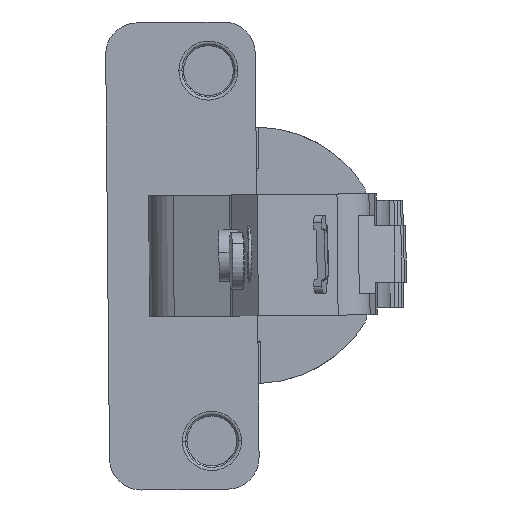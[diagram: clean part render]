
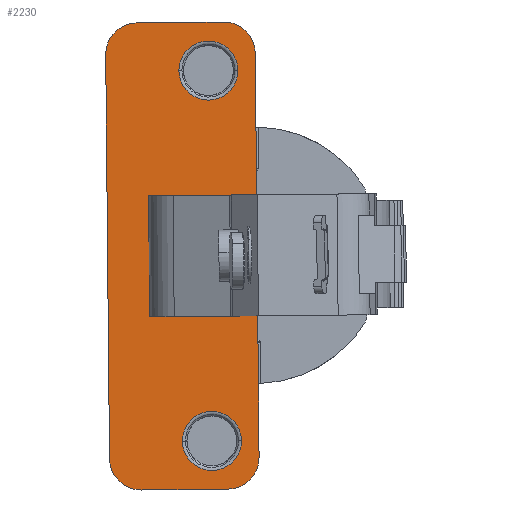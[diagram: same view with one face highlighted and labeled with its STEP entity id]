
A CAD part, left-side view. The second image highlights one B-rep face of the part: STEP entity #2230.
In plain terms, the highlighted planar face has unit normal (-1, 0, 0).
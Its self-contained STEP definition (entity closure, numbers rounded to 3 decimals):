
#76 = VERTEX_POINT ( 'NONE', #7953 ) ;
#136 = CARTESIAN_POINT ( 'NONE',  ( -3., 40.975, -9.781 ) ) ;
#166 = VERTEX_POINT ( 'NONE', #4179 ) ;
#216 = DIRECTION ( 'NONE',  ( 0., -1., 0.009 ) ) ;
#254 = ORIENTED_EDGE ( 'NONE', *, *, #7974, .T. ) ;
#343 = EDGE_CURVE ( 'NONE', #4344, #3822, #7527, .T. ) ;
#393 = AXIS2_PLACEMENT_3D ( 'NONE', #5377, #6054, #3432 ) ;
#440 = CARTESIAN_POINT ( 'NONE',  ( -3., 25.818, -9.639 ) ) ;
#517 = VERTEX_POINT ( 'NONE', #136 ) ;
#518 = CARTESIAN_POINT ( 'NONE',  ( -3., 32.095, -44.199 ) ) ;
#556 = VECTOR ( 'NONE', #6443, 1000. ) ;
#587 = ORIENTED_EDGE ( 'NONE', *, *, #4378, .F. ) ;
#614 = DIRECTION ( 'NONE',  ( -1., 0., 0. ) ) ;
#635 = EDGE_CURVE ( 'NONE', #2062, #5420, #2954, .T. ) ;
#787 = VERTEX_POINT ( 'NONE', #7064 ) ;
#866 = LINE ( 'NONE', #3310, #5435 ) ;
#879 = CARTESIAN_POINT ( 'NONE',  ( -3., 42.009, -46.628 ) ) ;
#886 = EDGE_CURVE ( 'NONE', #166, #5793, #5086, .T. ) ;
#904 = EDGE_CURVE ( 'NONE', #5199, #969, #2133, .T. ) ;
#969 = VERTEX_POINT ( 'NONE', #1000 ) ;
#990 = ORIENTED_EDGE ( 'NONE', *, *, #3110, .T. ) ;
#993 = ORIENTED_EDGE ( 'NONE', *, *, #3153, .T. ) ;
#1000 = CARTESIAN_POINT ( 'NONE',  ( -3., 42.582, 14.505 ) ) ;
#1036 = CARTESIAN_POINT ( 'NONE',  ( -3., 46.472, -46.67 ) ) ;
#1132 = DIRECTION ( 'NONE',  ( 0., -1., 0.009 ) ) ;
#1221 = LINE ( 'NONE', #4443, #556 ) ;
#1252 = VERTEX_POINT ( 'NONE', #1992 ) ;
#1270 = EDGE_CURVE ( 'NONE', #1252, #5199, #1480, .T. ) ;
#1336 = ORIENTED_EDGE ( 'NONE', *, *, #635, .T. ) ;
#1448 = DIRECTION ( 'NONE',  ( -1., 0., 0. ) ) ;
#1480 = CIRCLE ( 'NONE', #3628, 4.464 ) ;
#1672 = CARTESIAN_POINT ( 'NONE',  ( -3., 25.473, -46.515 ) ) ;
#1719 = CARTESIAN_POINT ( 'NONE',  ( -3., 29.937, -46.515 ) ) ;
#1768 = CARTESIAN_POINT ( 'NONE',  ( -3., 32.582, 7.799 ) ) ;
#1840 = VERTEX_POINT ( 'NONE', #5598 ) ;
#1873 = ORIENTED_EDGE ( 'NONE', *, *, #6617, .F. ) ;
#1924 = AXIS2_PLACEMENT_3D ( 'NONE', #518, #3223, #6428 ) ;
#1940 = VERTEX_POINT ( 'NONE', #440 ) ;
#1972 = AXIS2_PLACEMENT_3D ( 'NONE', #3446, #2812, #7976 ) ;
#1992 = CARTESIAN_POINT ( 'NONE',  ( -3., 26.004, 10.197 ) ) ;
#2062 = VERTEX_POINT ( 'NONE', #5458 ) ;
#2133 = LINE ( 'NONE', #6517, #2542 ) ;
#2230 = ADVANCED_FACE ( 'NONE', ( #3548, #7485, #6883 ), #2325, .T. ) ;
#2243 = CIRCLE ( 'NONE', #1972, 4.464 ) ;
#2256 = VERTEX_POINT ( 'NONE', #7358 ) ;
#2293 = DIRECTION ( 'NONE',  ( -1., 0., 0. ) ) ;
#2325 = PLANE ( 'NONE',  #7099 ) ;
#2350 = DIRECTION ( 'NONE',  ( 0., -1., 0.009 ) ) ;
#2437 = EDGE_CURVE ( 'NONE', #3822, #4344, #6264, .T. ) ;
#2542 = VECTOR ( 'NONE', #5882, 1000. ) ;
#2642 = VECTOR ( 'NONE', #2350, 1000. ) ;
#2812 = DIRECTION ( 'NONE',  ( -1., 0., 0. ) ) ;
#2867 = CIRCLE ( 'NONE', #1924, 4.149 ) ;
#2921 = DIRECTION ( 'NONE',  ( 0., -1., 0.009 ) ) ;
#2954 = LINE ( 'NONE', #7309, #4409 ) ;
#3052 = EDGE_CURVE ( 'NONE', #969, #76, #2243, .T. ) ;
#3053 = ORIENTED_EDGE ( 'NONE', *, *, #3101, .F. ) ;
#3098 = DIRECTION ( 'NONE',  ( 0., 0.009, 1. ) ) ;
#3101 = EDGE_CURVE ( 'NONE', #3135, #5420, #6263, .T. ) ;
#3110 = EDGE_CURVE ( 'NONE', #5793, #2062, #5195, .T. ) ;
#3135 = VERTEX_POINT ( 'NONE', #5023 ) ;
#3153 = EDGE_CURVE ( 'NONE', #3135, #517, #3650, .T. ) ;
#3223 = DIRECTION ( 'NONE',  ( -1., 0., 0. ) ) ;
#3310 = CARTESIAN_POINT ( 'NONE',  ( -3., 29.895, -50.979 ) ) ;
#3324 = ORIENTED_EDGE ( 'NONE', *, *, #2437, .T. ) ;
#3386 = DIRECTION ( 'NONE',  ( 0., -1., 0.009 ) ) ;
#3432 = DIRECTION ( 'NONE',  ( 0., -1., 0. ) ) ;
#3446 = CARTESIAN_POINT ( 'NONE',  ( -3., 42.54, 10.042 ) ) ;
#3507 = CARTESIAN_POINT ( 'NONE',  ( -3., 42.009, -46.628 ) ) ;
#3548 = FACE_BOUND ( 'NONE', #5753, .T. ) ;
#3628 = AXIS2_PLACEMENT_3D ( 'NONE', #4597, #1448, #7187 ) ;
#3637 = ORIENTED_EDGE ( 'NONE', *, *, #3052, .T. ) ;
#3650 = LINE ( 'NONE', #3770, #7780 ) ;
#3770 = CARTESIAN_POINT ( 'NONE',  ( -3., 40.082, -104.989 ) ) ;
#3822 = VERTEX_POINT ( 'NONE', #7353 ) ;
#3880 = AXIS2_PLACEMENT_3D ( 'NONE', #1768, #7688, #6410 ) ;
#4087 = DIRECTION ( 'NONE',  ( 0., 0.009, 1. ) ) ;
#4145 = CIRCLE ( 'NONE', #5357, 4.149 ) ;
#4179 = CARTESIAN_POINT ( 'NONE',  ( -3., 29.895, -50.979 ) ) ;
#4312 = ORIENTED_EDGE ( 'NONE', *, *, #1270, .T. ) ;
#4331 = EDGE_CURVE ( 'NONE', #1840, #8213, #4543, .T. ) ;
#4344 = VERTEX_POINT ( 'NONE', #7385 ) ;
#4350 = ORIENTED_EDGE ( 'NONE', *, *, #7439, .F. ) ;
#4352 = DIRECTION ( 'NONE',  ( 0., 0.009, 1. ) ) ;
#4378 = EDGE_CURVE ( 'NONE', #787, #2256, #4145, .T. ) ;
#4397 = CARTESIAN_POINT ( 'NONE',  ( -3., 25.659, -26.638 ) ) ;
#4398 = CARTESIAN_POINT ( 'NONE',  ( -3., 26.004, 10.197 ) ) ;
#4409 = VECTOR ( 'NONE', #4087, 1000. ) ;
#4443 = CARTESIAN_POINT ( 'NONE',  ( -3., 25.818, -9.639 ) ) ;
#4448 = DIRECTION ( 'NONE',  ( 0., -0.009, -1. ) ) ;
#4469 = EDGE_CURVE ( 'NONE', #1940, #1252, #7627, .T. ) ;
#4543 = CIRCLE ( 'NONE', #6968, 4.464 ) ;
#4545 = LINE ( 'NONE', #1036, #4917 ) ;
#4597 = CARTESIAN_POINT ( 'NONE',  ( -3., 30.468, 10.155 ) ) ;
#4917 = VECTOR ( 'NONE', #4448, 1000. ) ;
#4949 = DIRECTION ( 'NONE',  ( 0., -1., 0. ) ) ;
#5023 = CARTESIAN_POINT ( 'NONE',  ( -3., 40.815, -26.78 ) ) ;
#5086 = CIRCLE ( 'NONE', #393, 4.464 ) ;
#5129 = CARTESIAN_POINT ( 'NONE',  ( -3., 30.51, 14.618 ) ) ;
#5195 = CIRCLE ( 'NONE', #7505, 4.464 ) ;
#5199 = VERTEX_POINT ( 'NONE', #5129 ) ;
#5225 = EDGE_CURVE ( 'NONE', #76, #1840, #4545, .T. ) ;
#5311 = CARTESIAN_POINT ( 'NONE',  ( -3., 32.582, 7.799 ) ) ;
#5357 = AXIS2_PLACEMENT_3D ( 'NONE', #8299, #614, #1132 ) ;
#5375 = ORIENTED_EDGE ( 'NONE', *, *, #5225, .T. ) ;
#5377 = CARTESIAN_POINT ( 'NONE',  ( -3., 29.937, -46.515 ) ) ;
#5420 = VERTEX_POINT ( 'NONE', #7474 ) ;
#5429 = DIRECTION ( 'NONE',  ( -1., 0., 0. ) ) ;
#5435 = VECTOR ( 'NONE', #3386, 1000. ) ;
#5458 = CARTESIAN_POINT ( 'NONE',  ( -3., 25.473, -46.473 ) ) ;
#5546 = DIRECTION ( 'NONE',  ( -1., 0., 0. ) ) ;
#5598 = CARTESIAN_POINT ( 'NONE',  ( -3., 46.472, -46.67 ) ) ;
#5608 = AXIS2_PLACEMENT_3D ( 'NONE', #5311, #7905, #216 ) ;
#5753 = EDGE_LOOP ( 'NONE', ( #3324, #6971 ) ) ;
#5793 = VERTEX_POINT ( 'NONE', #1672 ) ;
#5882 = DIRECTION ( 'NONE',  ( 0., 1., -0.009 ) ) ;
#6054 = DIRECTION ( 'NONE',  ( -1., 0., 0. ) ) ;
#6255 = ORIENTED_EDGE ( 'NONE', *, *, #4331, .T. ) ;
#6263 = LINE ( 'NONE', #4397, #2642 ) ;
#6264 = CIRCLE ( 'NONE', #5608, 4.149 ) ;
#6410 = DIRECTION ( 'NONE',  ( 0., -1., 0.009 ) ) ;
#6428 = DIRECTION ( 'NONE',  ( 0., -1., 0.009 ) ) ;
#6443 = DIRECTION ( 'NONE',  ( 0., 1., -0.009 ) ) ;
#6517 = CARTESIAN_POINT ( 'NONE',  ( -3., 42.582, 14.505 ) ) ;
#6617 = EDGE_CURVE ( 'NONE', #2256, #787, #2867, .T. ) ;
#6770 = CARTESIAN_POINT ( 'NONE',  ( -3., 41.967, -51.092 ) ) ;
#6883 = FACE_OUTER_BOUND ( 'NONE', #8327, .T. ) ;
#6968 = AXIS2_PLACEMENT_3D ( 'NONE', #879, #5429, #8018 ) ;
#6971 = ORIENTED_EDGE ( 'NONE', *, *, #343, .T. ) ;
#7064 = CARTESIAN_POINT ( 'NONE',  ( -3., 36.243, -44.238 ) ) ;
#7099 = AXIS2_PLACEMENT_3D ( 'NONE', #3507, #2293, #2921 ) ;
#7187 = DIRECTION ( 'NONE',  ( 0., -1., 0. ) ) ;
#7309 = CARTESIAN_POINT ( 'NONE',  ( -3., 26.004, 10.197 ) ) ;
#7353 = CARTESIAN_POINT ( 'NONE',  ( -3., 28.434, 7.838 ) ) ;
#7358 = CARTESIAN_POINT ( 'NONE',  ( -3., 27.946, -44.16 ) ) ;
#7385 = CARTESIAN_POINT ( 'NONE',  ( -3., 36.731, 7.76 ) ) ;
#7439 = EDGE_CURVE ( 'NONE', #1940, #517, #1221, .T. ) ;
#7474 = CARTESIAN_POINT ( 'NONE',  ( -3., 25.659, -26.638 ) ) ;
#7485 = FACE_BOUND ( 'NONE', #7981, .T. ) ;
#7505 = AXIS2_PLACEMENT_3D ( 'NONE', #1719, #5546, #4949 ) ;
#7513 = ORIENTED_EDGE ( 'NONE', *, *, #4469, .T. ) ;
#7522 = VECTOR ( 'NONE', #4352, 1000. ) ;
#7527 = CIRCLE ( 'NONE', #3880, 4.149 ) ;
#7627 = LINE ( 'NONE', #4398, #7522 ) ;
#7688 = DIRECTION ( 'NONE',  ( 1., 0., 0. ) ) ;
#7744 = ORIENTED_EDGE ( 'NONE', *, *, #904, .T. ) ;
#7780 = VECTOR ( 'NONE', #3098, 1000. ) ;
#7846 = ORIENTED_EDGE ( 'NONE', *, *, #886, .T. ) ;
#7905 = DIRECTION ( 'NONE',  ( 1., 0., 0. ) ) ;
#7953 = CARTESIAN_POINT ( 'NONE',  ( -3., 47.003, 10. ) ) ;
#7974 = EDGE_CURVE ( 'NONE', #8213, #166, #866, .T. ) ;
#7976 = DIRECTION ( 'NONE',  ( 0., -1., 0. ) ) ;
#7981 = EDGE_LOOP ( 'NONE', ( #1873, #587 ) ) ;
#8018 = DIRECTION ( 'NONE',  ( 0., -1., 0. ) ) ;
#8213 = VERTEX_POINT ( 'NONE', #6770 ) ;
#8299 = CARTESIAN_POINT ( 'NONE',  ( -3., 32.095, -44.199 ) ) ;
#8327 = EDGE_LOOP ( 'NONE', ( #3053, #993, #4350, #7513, #4312, #7744, #3637, #5375, #6255, #254, #7846, #990, #1336 ) ) ;
